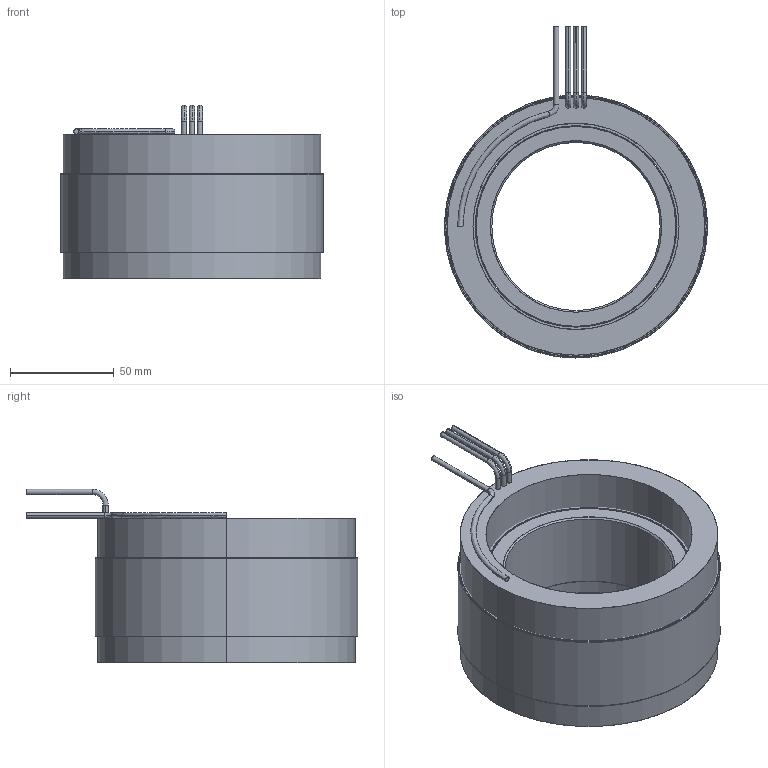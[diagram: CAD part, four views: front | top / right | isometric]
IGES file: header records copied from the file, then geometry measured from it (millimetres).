
Start section: SolidWorks IGES file using analytic representation for surfaces
Global section: file name: \\fs01.aveox.local\user documents\eng\My Documents\6100398-XX STATOR AND ROTOR SET, UT-5000-24P4, SENSORLESS TABULATED\6100398-03.IGS; native system: SolidWorks 2016; preprocessor: SolidWorks 2016; author: eng; date: 201226.190630; units: inch
Bounding box: 127 x 160.29 x 83.82 mm (x, y, z)
Surface area: 163882.9 mm2 (no closed solid volume)
Topology: 0 solids, 0 shells, 75 faces, 2236 edges, 2236 vertices
Faces by surface type: revolution 46, bspline 29
